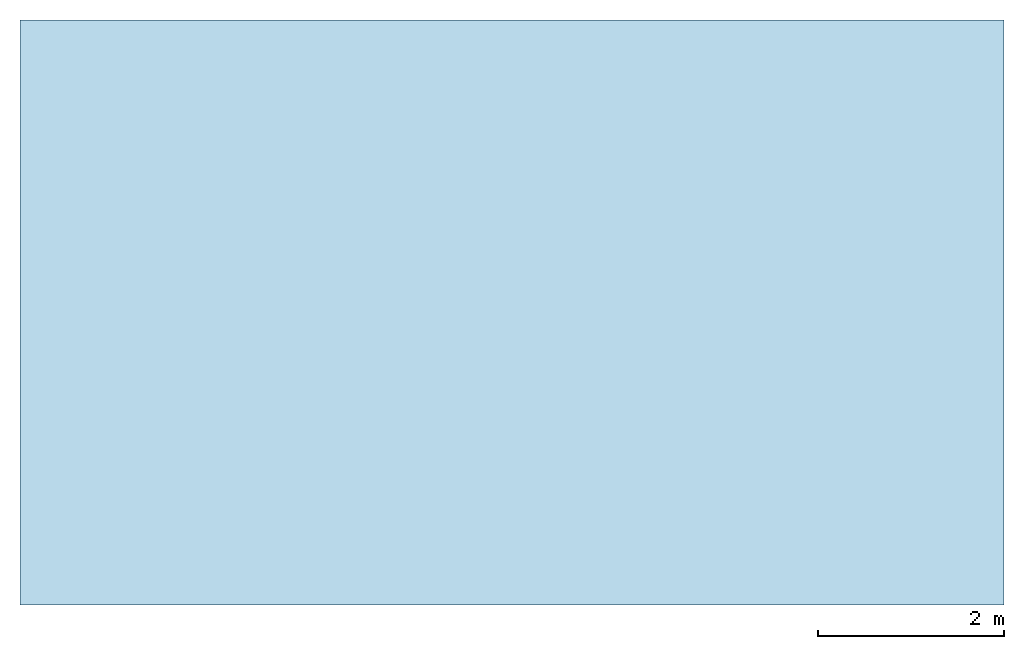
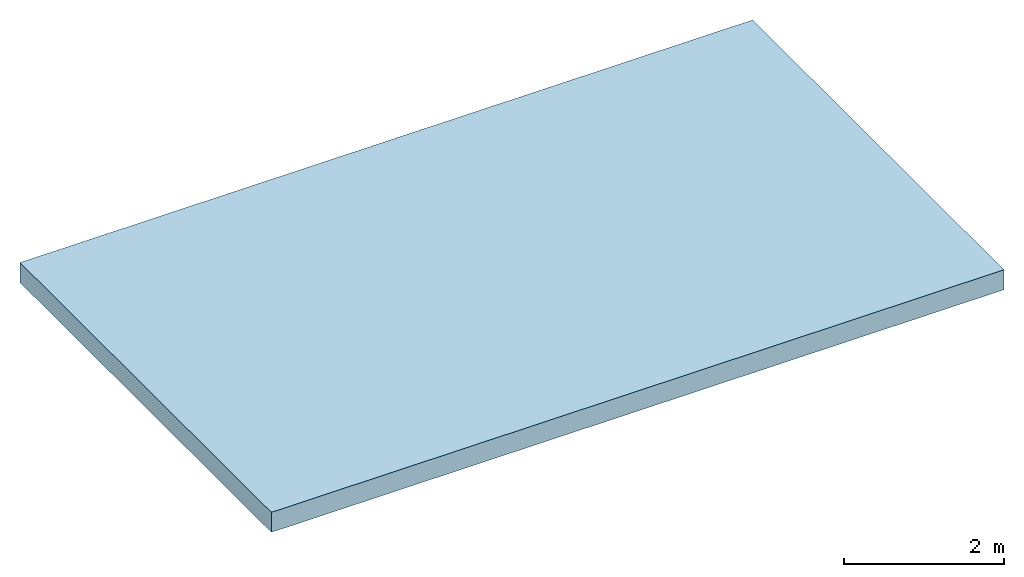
# One storey: 1 slab.
"""IFC2X3 building model written with IfcOpenShell, lengths in feet."""

from ifc_helpers import new_model, entity, si_unit, converted_unit, derived_unit, direction, frame, origin, origin_2d_with_axis, place, context, subcontext, project, spatial, rectangle, extrude, material, layer, layer_set, layer_usage, element, save


model = new_model("IFC2X3")

# Units and contexts
model_context = context("Model", 3, precision=0.0001, world=origin(), true_north=direction((6.12303176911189e-17, 1.0)))
body_context = subcontext(model_context, "Body", "Model", "MODEL_VIEW")
ifc_project = project(units=[converted_unit("LENGTHUNIT", "FOOT", entity("IfcRatioMeasure", 0.3048), si_unit("LENGTHUNIT", "METRE"), dimensions=[1, 0, 0, 0, 0, 0, 0]), converted_unit("AREAUNIT", "SQUARE FOOT", entity("IfcRatioMeasure", 0.09290304), si_unit("AREAUNIT", "SQUARE_METRE"), dimensions=[2, 0, 0, 0, 0, 0, 0]), converted_unit("VOLUMEUNIT", "CUBIC FOOT", entity("IfcRatioMeasure", 0.028316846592), si_unit("VOLUMEUNIT", "CUBIC_METRE"), dimensions=[3, 0, 0, 0, 0, 0, 0]), converted_unit("PLANEANGLEUNIT", "DEGREE", entity("IfcRatioMeasure", 0.0174532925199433), si_unit("PLANEANGLEUNIT", "RADIAN"), dimensions=[0, 0, 0, 0, 0, 0, 0]), si_unit("MASSUNIT", "GRAM", prefix="KILO"), derived_unit("MASSDENSITYUNIT", [(si_unit("MASSUNIT", "GRAM", prefix="KILO"), 1), (si_unit("LENGTHUNIT", "METRE"), -3)]), si_unit("TIMEUNIT", "SECOND"), si_unit("FREQUENCYUNIT", "HERTZ"), si_unit("THERMODYNAMICTEMPERATUREUNIT", "DEGREE_CELSIUS"), derived_unit("THERMALTRANSMITTANCEUNIT", [(si_unit("MASSUNIT", "GRAM", prefix="KILO"), 1), (si_unit("THERMODYNAMICTEMPERATUREUNIT", "KELVIN"), -1), (si_unit("TIMEUNIT", "SECOND"), -3)]), derived_unit("VOLUMETRICFLOWRATEUNIT", [(si_unit("LENGTHUNIT", "METRE"), 3), (si_unit("TIMEUNIT", "SECOND"), -1)]), si_unit("ELECTRICCURRENTUNIT", "AMPERE"), si_unit("ELECTRICVOLTAGEUNIT", "VOLT"), si_unit("POWERUNIT", "WATT"), si_unit("FORCEUNIT", "NEWTON"), si_unit("ILLUMINANCEUNIT", "LUX"), si_unit("LUMINOUSFLUXUNIT", "LUMEN"), si_unit("LUMINOUSINTENSITYUNIT", "CANDELA"), derived_unit("USERDEFINED", [(si_unit("MASSUNIT", "GRAM", prefix="KILO"), -1), (si_unit("LENGTHUNIT", "METRE"), -2), (si_unit("TIMEUNIT", "SECOND"), 3), (si_unit("LUMINOUSFLUXUNIT", "LUMEN"), 1)]), derived_unit("LINEARVELOCITYUNIT", [(si_unit("LENGTHUNIT", "METRE"), 1), (si_unit("TIMEUNIT", "SECOND"), -1)]), si_unit("PRESSUREUNIT", "PASCAL"), derived_unit("USERDEFINED", [(si_unit("LENGTHUNIT", "METRE"), -2), (si_unit("MASSUNIT", "GRAM", prefix="KILO"), 1), (si_unit("TIMEUNIT", "SECOND"), -2)])], contexts=[model_context])

# Site, building, storey
site_placement = place(None, origin())
site = spatial("IfcSite", under=ifc_project, at=site_placement, Name="Default", CompositionType="ELEMENT")
building_placement = place(site_placement, origin())
building = spatial("IfcBuilding", under=site, at=building_placement, CompositionType="ELEMENT")
storey_placement = place(building_placement, frame((0.0, 0.0, 69.0)))
storey = spatial("IfcBuildingStorey", under=building, at=storey_placement, Name="L 12", CompositionType="ELEMENT", Elevation=68.9999999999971)

# Slab
ifc_material = material(Name="Concrete, Cast-in-Place gray")
ifc_layer = layer(ifc_material, 1.0)
ifc_layer_set = layer_set([ifc_layer], Name="Floor:Generic - 12\"")
ifc_layer_usage = layer_usage(ifc_layer_set, "AXIS3", "POSITIVE", 0.0)
slab_placement = place(storey_placement, origin())
element("IfcSlab", 1, at=slab_placement, inside=storey, material=ifc_layer_usage, Name="Floor:Generic - 12\"", ObjectType="Floor:Generic - 12\"", PredefinedType="FLOOR", context=body_context, shape_type="SweptSolid", body=[
    extrude(rectangle(XDim=20.6041666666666, YDim=34.6666666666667, at=origin_2d_with_axis()), frame((-33.991829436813, -5.03489126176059, 0.0), z_axis=(0.0, 0.0, -1.0), x_axis=(0.0, 1.0, 0.0)), (0.0, 0.0, 1.0), 1.0),
])

save(model, "model.ifc")
